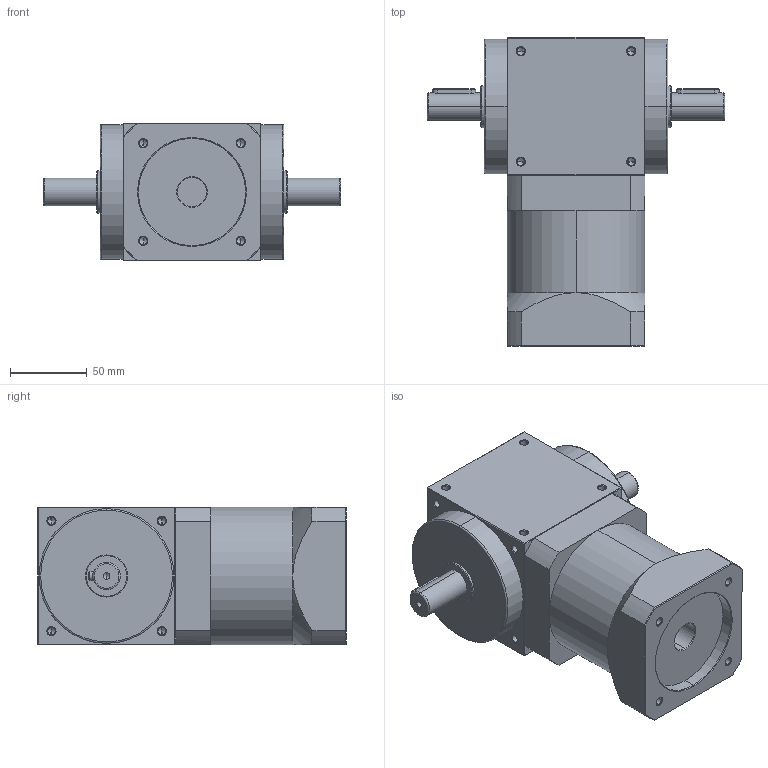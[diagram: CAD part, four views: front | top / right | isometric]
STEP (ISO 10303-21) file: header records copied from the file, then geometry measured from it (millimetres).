
FILE_DESCRIPTION (( 'STEP AP214' ), '1' );
FILE_NAME ('AT090-FL-L1-750W.STEP', '2019-07-19T00:41:56', ( 'User' ), ( 'Far123' ), 'SwSTEP 2.0', 'SolidWorks 2015', '' );
FILE_SCHEMA (( 'AUTOMOTIVE_DESIGN' ));
Length unit declared in the file: millimetre
Products named in the file (1): AT090-FL-L1-750W
Bounding box: 194 x 201.5 x 90 mm (x, y, z)
Volume: 1677104 mm3; surface area: 106452.9 mm2
Topology: 1 solids, 1 shells, 318 faces, 774 edges, 418 vertices
Faces by surface type: cylinder 122, cone 120, plane 68, torus 8
Entity records: 10048 total; most frequent: CARTESIAN_POINT 2071, DIRECTION 1480, ORIENTED_EDGE 1444, EDGE_CURVE 722, AXIS2_PLACEMENT_3D 571, VERTEX_POINT 418, EDGE_LOOP 354, VECTOR 338
